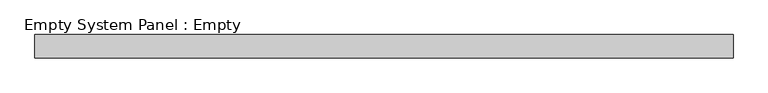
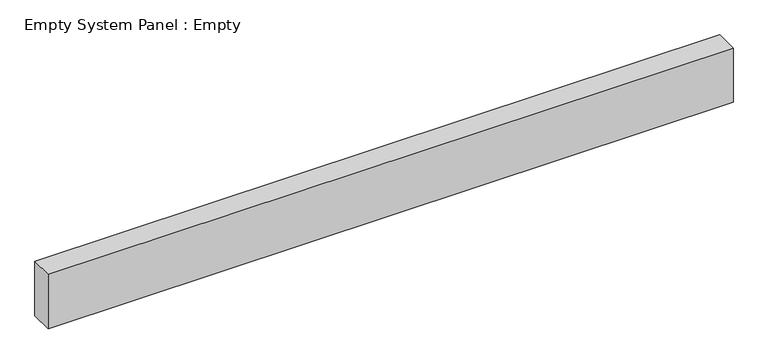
"""IFC4 building model written with IfcOpenShell, lengths in millimetres: plate geometry, Empty System Panel : Empty."""

import ifcopenshell
import ifcopenshell.guid

model = None  # the IFC model being written
_history = None  # IfcOwnerHistory: only IFC2X3 demands one
_inside = {}  # id of a spatial element -> (the spatial element, [elements in it])
_under = {}  # id of a project, library or spatial element -> (it, [spatial elements below it])
_declared = {}  # id of a project -> (the project, [libraries it declares])
_typed = {}  # id of a type object -> (the type object, [elements of that type])
_made_of = {}  # id of a material, layer set ... -> (it, [elements and type objects made of it])


def new_model(schema):
    """Start an empty IFC model of exactly this schema.

    Asked for "IFC4X3", IfcOpenShell would pick the latest addendum, in which some entities
    have other attributes; the version numbers below select the first issue.
    IFC2X3 requires an IfcOwnerHistory on every rooted entity: one is made here for all.
    """
    global model, _history
    if schema == "IFC4X3":
        model = ifcopenshell.file(schema_version=(4, 3, 0, 0))
    else:
        model = ifcopenshell.file(schema=schema)
    _inside.clear()
    _under.clear()
    _declared.clear()
    _typed.clear()
    _made_of.clear()
    _history = None
    if model.schema == "IFC2X3":
        org = make("IfcOrganization", Name="unknown")
        user = make(
            "IfcPersonAndOrganization",
            ThePerson=make("IfcPerson", FamilyName="unknown"),
            TheOrganization=org,
        )
        app = make(
            "IfcApplication",
            ApplicationDeveloper=org,
            Version="unknown",
            ApplicationFullName="unknown",
            ApplicationIdentifier="unknown",
        )
        _history = make(
            "IfcOwnerHistory",
            OwningUser=user,
            OwningApplication=app,
            ChangeAction="ADDED",
            CreationDate=0,
        )
    return model


def make(cls, **values):
    """One entity of the class cls with the attributes given. An attribute that is None is left unset."""
    return model.create_entity(
        cls, **{name: value for name, value in values.items() if value is not None}
    )


def rooted(cls, **values):
    """An entity with a GlobalId (a new one), such as an element, a storey or a relation."""
    return make(cls, GlobalId=ifcopenshell.guid.new(), OwnerHistory=_history, **values)


def si_unit(unit_type, name, prefix=None):
    """IfcSIUnit, for example si_unit("LENGTHUNIT", "METRE", prefix="MILLI")."""
    return make("IfcSIUnit", UnitType=unit_type, Prefix=prefix, Name=name)


def assignment(units):
    """IfcUnitAssignment: the units of a project."""
    return None if units is None else make("IfcUnitAssignment", Units=units)


def point(xyz):
    """IfcCartesianPoint."""
    return None if xyz is None else make("IfcCartesianPoint", Coordinates=xyz)


def direction(xyz):
    """IfcDirection."""
    return None if xyz is None else make("IfcDirection", DirectionRatios=xyz)


def frame(location, z_axis=None, x_axis=None):
    """IfcAxis2Placement3D, a coordinate frame: its origin and axes. An axis left out is left unset."""
    return make(
        "IfcAxis2Placement3D",
        Location=point(location),
        Axis=direction(z_axis),
        RefDirection=direction(x_axis),
    )


def origin():
    """The frame at (0, 0, 0) with its axes left unset."""
    return frame((0.0, 0.0, 0.0))


def origin_with_axes():
    """The frame at (0, 0, 0) with the z axis (0, 0, 1) and the x axis (1, 0, 0) written out."""
    return frame((0.0, 0.0, 0.0), z_axis=(0.0, 0.0, 1.0), x_axis=(1.0, 0.0, 0.0))


def place(relative_to, where):
    """IfcLocalPlacement: puts the frame where relative to a parent placement (None: the world)."""
    return make(
        "IfcLocalPlacement", PlacementRelTo=relative_to, RelativePlacement=where
    )


def context(
    kind, dimensions, precision=None, world=None, true_north=None, identifier=None
):
    """IfcGeometricRepresentationContext, for example the 3D "Model" context."""
    return make(
        "IfcGeometricRepresentationContext",
        ContextIdentifier=identifier,
        ContextType=kind,
        CoordinateSpaceDimension=dimensions,
        Precision=precision,
        WorldCoordinateSystem=world,
        TrueNorth=true_north,
    )


def project(units=None, contexts=None):
    """IfcProject with its units and contexts."""
    return rooted(
        "IfcProject",
        Name="project",
        RepresentationContexts=contexts,
        UnitsInContext=assignment(units),
    )


def spatial(cls, under=None, at=None, **own):
    """A site, building, storey or space (cls), placed at a placement, below another one or the project."""
    s = rooted(cls, ObjectPlacement=at, **own)
    if under is not None:
        _under.setdefault(under.id(), (under, []))[1].append(s)
    return s


def polyline(points):
    """IfcPolyline through the points."""
    return make("IfcPolyline", Points=[point(p) for p in points])


def outline(outer, holes=None, kind="AREA"):
    """IfcArbitraryClosedProfileDef: a profile drawn as a closed curve; with holes, ...WithVoids."""
    if holes is None:
        return make("IfcArbitraryClosedProfileDef", ProfileType=kind, OuterCurve=outer)
    return make(
        "IfcArbitraryProfileDefWithVoids",
        ProfileType=kind,
        OuterCurve=outer,
        InnerCurves=holes,
    )


def extrude(swept, where, along, depth):
    """IfcExtrudedAreaSolid: the profile swept, set in the frame where, extruded along a direction by depth."""
    return make(
        "IfcExtrudedAreaSolid",
        SweptArea=swept,
        Position=where,
        ExtrudedDirection=direction(along),
        Depth=depth,
    )


def shape(context_of_items, identifier, shape_type, items):
    """IfcShapeRepresentation: the items that make up one representation, for example the "Body"."""
    return make(
        "IfcShapeRepresentation",
        ContextOfItems=context_of_items,
        RepresentationIdentifier=identifier,
        RepresentationType=shape_type,
        Items=items,
    )


def source(mapping_origin, context_of_items, identifier, shape_type, items):
    """IfcRepresentationMap: a shape defined once, which mapped items show again and again."""
    return make(
        "IfcRepresentationMap",
        MappingOrigin=mapping_origin,
        MappedRepresentation=shape(context_of_items, identifier, shape_type, items),
    )


def transform(
    local_origin,
    x_axis=None,
    y_axis=None,
    z_axis=None,
    scale=None,
    scale2=None,
    scale3=None,
    uniform=True,
):
    """IfcCartesianTransformationOperator3D, or its non-uniform kind. x_axis, y_axis, z_axis: its Axis1, 2, 3."""
    if uniform:
        return make(
            "IfcCartesianTransformationOperator3D",
            Axis1=direction(x_axis),
            Axis2=direction(y_axis),
            LocalOrigin=point(local_origin),
            Scale=scale,
            Axis3=direction(z_axis),
        )
    return make(
        "IfcCartesianTransformationOperator3DnonUniform",
        Axis1=direction(x_axis),
        Axis2=direction(y_axis),
        LocalOrigin=point(local_origin),
        Scale=scale,
        Axis3=direction(z_axis),
        Scale2=scale2,
        Scale3=scale3,
    )


def mapped(mapping_source, mapping_target):
    """IfcMappedItem: shows the shape of a source again, moved by a transform."""
    return make(
        "IfcMappedItem", MappingSource=mapping_source, MappingTarget=mapping_target
    )


def made_of(thing, what):
    """Note that an element or type object is made of a material, layer set ...; save() writes the relation."""
    if what is not None:
        _made_of.setdefault(what.id(), (what, []))[1].append(thing)
    return thing


def element(
    cls,
    number,
    at=None,
    inside=None,
    cuts=None,
    type_object=None,
    material=None,
    context=None,
    identifier="Body",
    shape_type=None,
    held_by="IfcProductDefinitionShape",
    body=None,
    shapes=None,
    **own,
):
    """One element of the class cls, such as IfcWall. Its Tag is "e" and its number.

    at: its placement. inside: the storey or other place that contains it. cuts: it is an
    opening in that element (IfcRelVoidsElement). A single representation is given by context,
    identifier, shape_type and body (its items); several are given by shapes. held_by: the class
    of the entity that holds the representations. save() writes the other relations.
    """
    e = rooted(cls, Tag="e%d" % number, ObjectPlacement=at, **own)
    if body is not None:
        shapes = [shape(context, identifier, shape_type, body)]
    if shapes is not None:
        e.Representation = make(held_by, Representations=shapes)
    if inside is not None:
        _inside.setdefault(inside.id(), (inside, []))[1].append(e)
    if cuts is not None:
        rooted(
            "IfcRelVoidsElement", RelatingBuildingElement=cuts, RelatedOpeningElement=e
        )
    if type_object is not None:
        _typed.setdefault(type_object.id(), (type_object, []))[1].append(e)
    return made_of(e, material)


def aggregate(whole, parts):
    """IfcRelAggregates: a whole, such as a stair, and the parts it consists of."""
    return rooted("IfcRelAggregates", RelatingObject=whole, RelatedObjects=parts)


def save(model, path):
    """Write the relations noted so far, then the file.

    IfcRelAggregates (storeys below a building ...), IfcRelContainedInSpatialStructure (elements
    in a storey), IfcRelDefinesByType, IfcRelAssociatesMaterial and IfcRelDeclares: one each for
    every whole, place, type object, material and project.
    """
    for whole, parts in _under.values():
        aggregate(whole, parts)
    for where, things in _inside.values():
        rooted(
            "IfcRelContainedInSpatialStructure",
            RelatedElements=things,
            RelatingStructure=where,
        )
    for kind, things in _typed.values():
        rooted("IfcRelDefinesByType", RelatedObjects=things, RelatingType=kind)
    for what, things in _made_of.values():
        rooted("IfcRelAssociatesMaterial", RelatedObjects=things, RelatingMaterial=what)
    for by, libraries in _declared.values():
        rooted("IfcRelDeclares", RelatingContext=by, RelatedDefinitions=libraries)
    model.write(path)


def empty_system_panel_empty_3b3bfbe1(model_context):
    return source(origin(), model_context, "Body", "SweptSolid", [
        extrude(outline(polyline([(1500.0, -50.0), (-1500.0, -50.0), (-1500.0, 50.0), (1500.0, 50.0), (1500.0, -50.0)])), origin_with_axes(), (0.0, 0.0, 1.0), 252.0),
    ])


if __name__ == "__main__":
    model = new_model("IFC4")
    model_context = context("Model", 3, world=origin())
    ifc_project = project(units=[si_unit("LENGTHUNIT", "METRE", prefix="MILLI")], contexts=[model_context])
    site = spatial("IfcSite", under=ifc_project)
    building = spatial("IfcBuilding", under=site)
    placement = place(None, origin())
    empty_system_panel_empty_shape = empty_system_panel_empty_3b3bfbe1(model_context)
    element("IfcPlate", 1, ObjectType="Empty System Panel : Empty", at=placement, inside=building, context=model_context, shape_type="MappedRepresentation", body=[
        mapped(empty_system_panel_empty_shape, transform((0.0, 0.0, 0.0), x_axis=(1.0, 0.0, 0.0), y_axis=(0.0, 1.0, 0.0), z_axis=(0.0, 0.0, 1.0))),
    ])
    save(model, "model.ifc")
